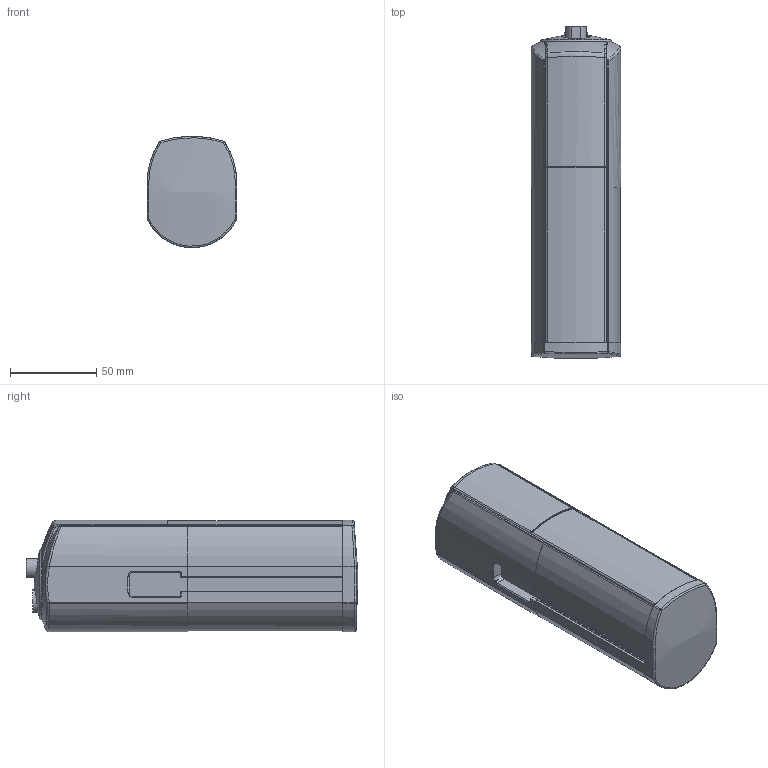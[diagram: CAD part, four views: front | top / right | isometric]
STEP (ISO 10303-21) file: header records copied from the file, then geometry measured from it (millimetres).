
FILE_DESCRIPTION((''),'2;1');
FILE_NAME('M:\INVENTORjob\Konstruktion\LAS 6025\Baugruppe\Vorschlag 4 2_Überarbeitung\STP-Daten Geräte\Receiver Extended\MLD530 R1.stp','2010-03-09T11:33:06',('seisen'),(''),'Autodesk Inventor 2009','Autodesk Inventor 2009','');
FILE_SCHEMA(('AUTOMOTIVE_DESIGN { 1 0 10303 214 1 1 1 1 }'));
Length unit declared in the file: millimetre
Products named in the file (1): MLD530 R1
Bounding box: 52 x 192.73 x 64.7 mm (x, y, z)
Volume: 314266.3 mm3; surface area: 76416.5 mm2
Topology: 6 solids, 6 shells, 466 faces, 1281 edges, 823 vertices
Faces by surface type: plane 175, bspline 146, cylinder 104, cone 20, torus 11, sphere 10
Full cylindrical faces by diameter (mm): 4.65 x2, 5.55 x2, 33.6 x1
Entity records: 22219 total; most frequent: CARTESIAN_POINT 10292, ORIENTED_EDGE 2518, DIRECTION 2205, EDGE_CURVE 1259, VERTEX_POINT 818, AXIS2_PLACEMENT_3D 760, VECTOR 685, LINE 685
